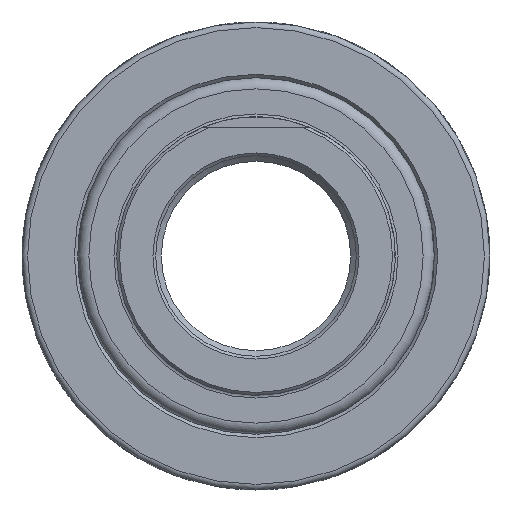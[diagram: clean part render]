
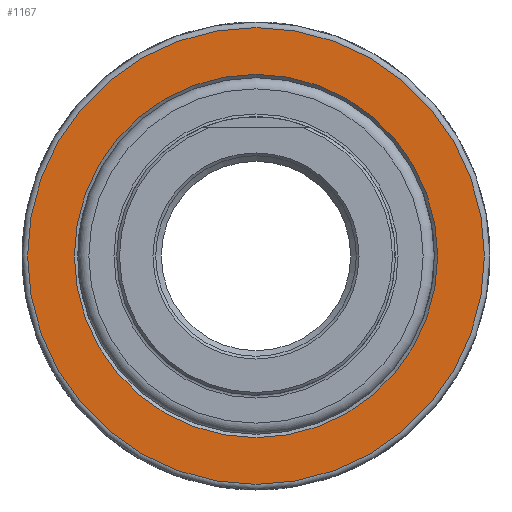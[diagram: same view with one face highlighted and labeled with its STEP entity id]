
A CAD part, left-side view. The second image highlights one B-rep face of the part: STEP entity #1167.
In plain terms, the highlighted planar face has unit normal (-1, 0, 0) as drawn and (0, -1, 0) by its records, which use the part's own axes.
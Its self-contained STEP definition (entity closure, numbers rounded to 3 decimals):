
#123=PLANE('',#1370);
#132=FACE_BOUND('',#283,.T.);
#213=FACE_OUTER_BOUND('',#282,.T.);
#282=EDGE_LOOP('',(#1065));
#283=EDGE_LOOP('',(#1066));
#482=CIRCLE('',#1369,16.3);
#483=CIRCLE('',#1371,20.5);
#594=VERTEX_POINT('',#2187);
#595=VERTEX_POINT('',#2191);
#754=EDGE_CURVE('',#594,#594,#482,.T.);
#755=EDGE_CURVE('',#595,#595,#483,.T.);
#1065=ORIENTED_EDGE('',*,*,#755,.F.);
#1066=ORIENTED_EDGE('',*,*,#754,.F.);
#1167=ADVANCED_FACE('',(#213,#132),#123,.T.);
#1369=AXIS2_PLACEMENT_3D('',#2189,#1677,#1678);
#1370=AXIS2_PLACEMENT_3D('',#2190,#1679,#1680);
#1371=AXIS2_PLACEMENT_3D('',#2192,#1681,#1682);
#1677=DIRECTION('center_axis',(0.,-1.,0.));
#1678=DIRECTION('ref_axis',(-1.,0.,0.));
#1679=DIRECTION('center_axis',(0.,-1.,0.));
#1680=DIRECTION('ref_axis',(0.,0.,-1.));
#1681=DIRECTION('center_axis',(0.,1.,0.));
#1682=DIRECTION('ref_axis',(-1.,0.,0.));
#2187=CARTESIAN_POINT('',(16.3,0.,0.));
#2189=CARTESIAN_POINT('Origin',(0.,0.,0.));
#2190=CARTESIAN_POINT('Origin',(15.3,0.,0.));
#2191=CARTESIAN_POINT('',(0.,0.,20.5));
#2192=CARTESIAN_POINT('Origin',(0.,0.,0.));
